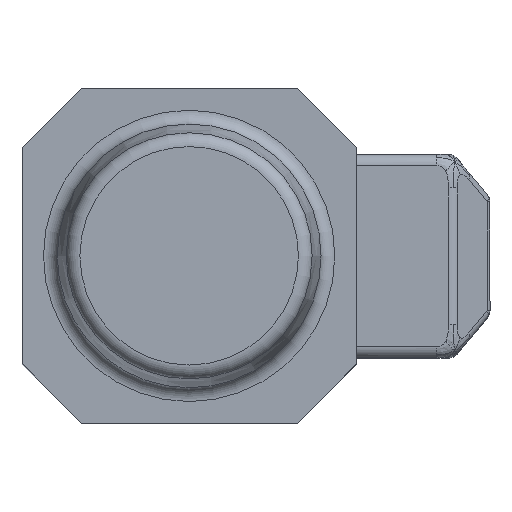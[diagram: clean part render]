
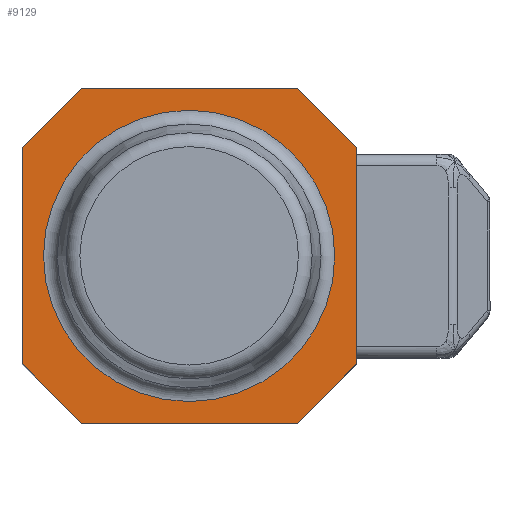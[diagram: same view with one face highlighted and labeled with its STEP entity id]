
A CAD part, top view. The second image highlights one B-rep face of the part: STEP entity #9129.
In plain terms, the highlighted planar face has unit normal (0, 0, 1) as drawn and (1, 0, 0) by its records, which use the part's own axes.
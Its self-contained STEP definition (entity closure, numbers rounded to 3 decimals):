
#9023=CARTESIAN_POINT('',(176.0,0.,52.284));
#9024=VERTEX_POINT('',#9023);
#9025=CARTESIAN_POINT('',(176.0,0.0,0.0));
#9026=DIRECTION('',(1.0,0.0,0.0));
#9027=DIRECTION('',(0.0,0.0,-1.0));
#9028=AXIS2_PLACEMENT_3D('',#9025,#9026,#9027);
#9029=CIRCLE('',#9028,52.284);
#9030=EDGE_CURVE('',#9024,#9024,#9029,.T.);
#9055=CARTESIAN_POINT('',(176.0,26.4,0.0));
#9056=DIRECTION('',(1.0,0.0,0.0));
#9057=DIRECTION('',(0.0,0.0,-1.0));
#9058=AXIS2_PLACEMENT_3D('',#9055,#9056,#9057);
#9059=PLANE('',#9058);
#9060=CARTESIAN_POINT('',(176.0,-60.0,38.787));
#9061=VERTEX_POINT('',#9060);
#9062=CARTESIAN_POINT('',(176.0,-38.787,60.0));
#9063=VERTEX_POINT('',#9062);
#9064=CARTESIAN_POINT('',(176.0,-60.0,38.787));
#9065=DIRECTION('',(0.0,0.707,0.707));
#9066=VECTOR('',#9065,30.);
#9067=LINE('',#9064,#9066);
#9068=EDGE_CURVE('',#9061,#9063,#9067,.T.);
#9069=ORIENTED_EDGE('',*,*,#9068,.F.);
#9070=CARTESIAN_POINT('',(176.0,-60.0,-38.787));
#9071=VERTEX_POINT('',#9070);
#9072=CARTESIAN_POINT('',(176.0,-60.0,-38.787));
#9073=DIRECTION('',(0.0,0.0,1.0));
#9074=VECTOR('',#9073,77.574);
#9075=LINE('',#9072,#9074);
#9076=EDGE_CURVE('',#9071,#9061,#9075,.T.);
#9077=ORIENTED_EDGE('',*,*,#9076,.F.);
#9078=CARTESIAN_POINT('',(176.0,-38.787,-60.0));
#9079=VERTEX_POINT('',#9078);
#9080=CARTESIAN_POINT('',(176.0,-38.787,-60.0));
#9081=DIRECTION('',(0.0,-0.707,0.707));
#9082=VECTOR('',#9081,30.);
#9083=LINE('',#9080,#9082);
#9084=EDGE_CURVE('',#9079,#9071,#9083,.T.);
#9085=ORIENTED_EDGE('',*,*,#9084,.F.);
#9086=CARTESIAN_POINT('',(176.0,38.787,-60.0));
#9087=VERTEX_POINT('',#9086);
#9088=CARTESIAN_POINT('',(176.0,38.787,-60.0));
#9089=DIRECTION('',(0.0,-1.0,0.0));
#9090=VECTOR('',#9089,77.574);
#9091=LINE('',#9088,#9090);
#9092=EDGE_CURVE('',#9087,#9079,#9091,.T.);
#9093=ORIENTED_EDGE('',*,*,#9092,.F.);
#9094=CARTESIAN_POINT('',(176.0,60.0,-38.787));
#9095=VERTEX_POINT('',#9094);
#9096=CARTESIAN_POINT('',(176.0,60.0,-38.787));
#9097=DIRECTION('',(0.0,-0.707,-0.707));
#9098=VECTOR('',#9097,30.);
#9099=LINE('',#9096,#9098);
#9100=EDGE_CURVE('',#9095,#9087,#9099,.T.);
#9101=ORIENTED_EDGE('',*,*,#9100,.F.);
#9102=CARTESIAN_POINT('',(176.0,60.0,38.787));
#9103=VERTEX_POINT('',#9102);
#9104=CARTESIAN_POINT('',(176.0,60.0,38.787));
#9105=DIRECTION('',(0.0,0.0,-1.0));
#9106=VECTOR('',#9105,77.574);
#9107=LINE('',#9104,#9106);
#9108=EDGE_CURVE('',#9103,#9095,#9107,.T.);
#9109=ORIENTED_EDGE('',*,*,#9108,.F.);
#9110=CARTESIAN_POINT('',(176.0,38.787,60.0));
#9111=VERTEX_POINT('',#9110);
#9112=CARTESIAN_POINT('',(176.0,38.787,60.0));
#9113=DIRECTION('',(0.0,0.707,-0.707));
#9114=VECTOR('',#9113,30.);
#9115=LINE('',#9112,#9114);
#9116=EDGE_CURVE('',#9111,#9103,#9115,.T.);
#9117=ORIENTED_EDGE('',*,*,#9116,.F.);
#9118=CARTESIAN_POINT('',(176.0,-38.787,60.0));
#9119=DIRECTION('',(0.0,1.0,0.0));
#9120=VECTOR('',#9119,77.574);
#9121=LINE('',#9118,#9120);
#9122=EDGE_CURVE('',#9063,#9111,#9121,.T.);
#9123=ORIENTED_EDGE('',*,*,#9122,.F.);
#9124=EDGE_LOOP('',(#9069,#9077,#9085,#9093,#9101,#9109,#9117,#9123));
#9125=FACE_OUTER_BOUND('',#9124,.T.);
#9126=ORIENTED_EDGE('',*,*,#9030,.F.);
#9127=EDGE_LOOP('',(#9126));
#9128=FACE_BOUND('',#9127,.T.);
#9129=ADVANCED_FACE('',(#9125,#9128),#9059,.T.);
